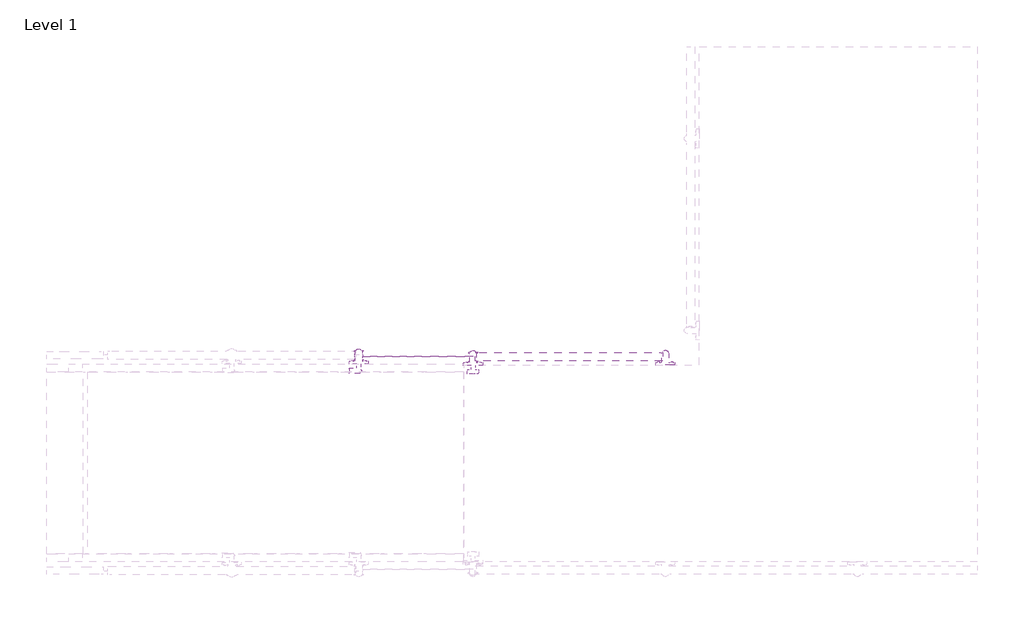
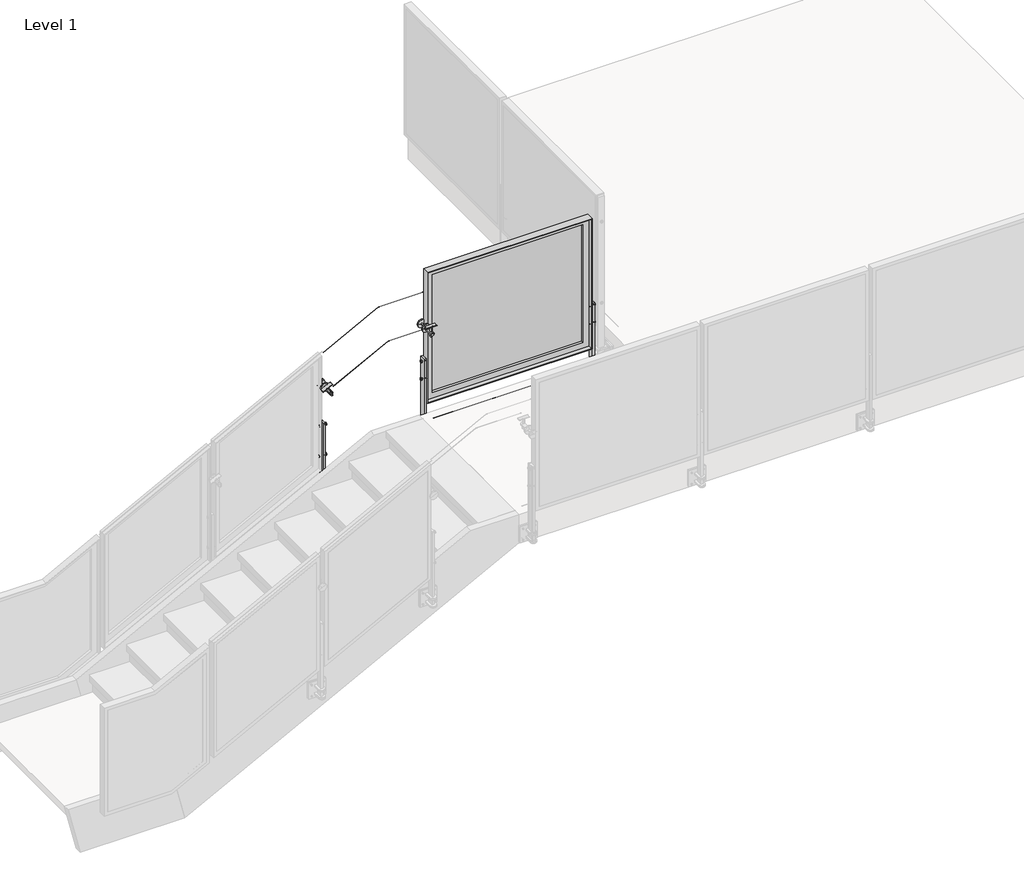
# One storey, part 25 of 37: 2 proxies, 2 railings.
"""IFC4 building model written with IfcOpenShell, lengths in millimetres."""

from ifc_helpers import new_model, si_unit, point, frame, frame_2d, origin, place, context, project, spatial, polyline, circle_curve, ellipse_curve, trimmed, segment, composite_curve, outline, extrude, faceted_brep, transform, mapped, element, save
from ifc_brep_helpers import plane_surface, cylinder_surface, advanced_brep
from components import baluster_end_post_viva_frame_top_mount_welded_fascia_mount_f3869cb3, baluster_end_post_viva_frame_top_mount_stairs_welded_fascia_58373508

model = new_model("IFC4")

# Units and contexts
model_context = context("Model", 3, world=origin())
ifc_project = project(units=[si_unit("LENGTHUNIT", "METRE", prefix="MILLI")], contexts=[model_context])

# Site, building, storey
site = spatial("IfcSite", under=ifc_project)
building = spatial("IfcBuilding", under=site)
storey = spatial("IfcBuildingStorey", under=building, Name="Level 1", Elevation=0.0)

# Proxies
placement = place(None, origin())
baluster_end_post_viva_frame_top_mount_welded_fascia_mount_shape = baluster_end_post_viva_frame_top_mount_welded_fascia_mount_f3869cb3(model_context)
element("IfcBuildingElementProxy", 1, Name="Baluster-End-Post-VIVA-FRAME-Top Mount : WELDED Fascia MOUNT FOLD_STRAIGHT", ObjectType="Baluster-End-Post-VIVA-FRAME-Top Mount : WELDED Fascia MOUNT FOLD_STRAIGHT", at=placement, inside=storey, context=model_context, shape_type="MappedRepresentation", body=[
    mapped(baluster_end_post_viva_frame_top_mount_welded_fascia_mount_shape, transform((-6142.7500753, -2684.7736112, 3047.492), x_axis=(-1.0, 0.0, 0.0), y_axis=(0.0, -1.0, 0.0), z_axis=(0.0, 0.0, 1.0))),
])
baluster_end_post_viva_frame_top_mount_stairs_welded_fascia_shape = baluster_end_post_viva_frame_top_mount_stairs_welded_fascia_58373508(model_context)
element("IfcBuildingElementProxy", 2, Name="Baluster-End-Post-VIVA-FRAME-Top Mount Stairs : WELDED Fascia MOUNT FRAME_STAIR", ObjectType="Baluster-End-Post-VIVA-FRAME-Top Mount Stairs : WELDED Fascia MOUNT FRAME_STAIR", at=placement, inside=storey, context=model_context, shape_type="MappedRepresentation", body=[
    mapped(baluster_end_post_viva_frame_top_mount_stairs_welded_fascia_shape, transform((-7412.9434339, -2686.9085772, 3784.092), x_axis=(-1.0, 0.0, 0.0), y_axis=(0.0, -1.0, 0.0), z_axis=(0.0, 0.0, 1.0))),
])

# Railings
element("IfcRailing", 3, ObjectType="Metal-Panel-VIVA-FRAME-Fascia-Stairs-Landing-Upper", at=placement, inside=storey, context=model_context, shape_type="SolidModel", body=[
    advanced_brep(
    [(-8168.6029585, -2687.1625772, 3568.458378), (-8168.6029585, -2686.6545772, 3568.458378), (-7753.0192861, -2687.1625772, 3784.346), (-7753.0192861, -2686.6545772, 3784.346), (-7412.9434339, -2687.1625772, 3784.346), (-7412.9434339, -2686.6545772, 3784.346)],
    [
        (0, 1, ellipse_curve(frame((-8168.6029585, -2686.9085772, 3568.458378), z_axis=(-1.0, 0.0, 0.0), x_axis=(0.0, 0.0, -1.0)), 0.2862277, 0.254)),
        (1, 0, ellipse_curve(frame((-8168.6029585, -2686.9085772, 3568.458378), z_axis=(-1.0, 0.0, 0.0), x_axis=(0.0, 0.0, -1.0)), 0.2862277, 0.254)),
        (0, 2),
        (2, 3, ellipse_curve(frame((-7753.0192861, -2686.9085772, 3784.346), z_axis=(-0.9714436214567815, 0.0, -0.2372705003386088), x_axis=(0.2372705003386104, 0.0, -0.9714436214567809)), 0.2614665, 0.254)),
        (3, 1),
        (3, 2, ellipse_curve(frame((-7753.0192861, -2686.9085772, 3784.346), z_axis=(-0.9714436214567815, 0.0, -0.2372705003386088), x_axis=(0.2372705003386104, 0.0, -0.9714436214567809)), 0.2614665, 0.254)),
        (4, 5, circle_curve(frame((-7412.9434339, -2686.9085772, 3784.346), z_axis=(1.0, 0.0, 0.0), x_axis=(0.0, 1.0, 0.0)), 0.254)),
        (5, 4, circle_curve(frame((-7412.9434339, -2686.9085772, 3784.346), z_axis=(1.0, 0.0, 0.0), x_axis=(0.0, 1.0, 0.0)), 0.254)),
        (2, 4),
        (5, 3),
    ],
    [
        plane_surface(frame((-8168.6029585, -2686.9085772, 3568.7446057), z_axis=(-1.0, 0.0, 0.0), x_axis=(0.0, 1.0, 0.0))),
        cylinder_surface(frame((-8168.4858671, -2686.9085772, 3568.5192047), z_axis=(-0.8874054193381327, 0.0, -0.46098982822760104), x_axis=(0.0, 1.0, 0.0)), 0.254),
        plane_surface(frame((-7412.9434339, -2686.9085772, 3784.6), z_axis=(1.0, 0.0, 0.0), x_axis=(0.0, 1.0, 0.0))),
        cylinder_surface(frame((-7753.0813244, -2686.9085772, 3784.346), z_axis=(-1.0, 0.0, 0.0), x_axis=(0.0, 1.0, 0.0)), 0.254),
    ],
    [
        (0, [[1, 2]]),
        (1, [[-1, 3, 4, 5]]),
        (1, [[-2, -5, 6, -3]]),
        (2, [[7, 8]]),
        (3, [[-4, 9, -8, 10]]),
        (3, [[-6, -10, -7, -9]]),
    ],
),
    advanced_brep(
    [(-8168.6029585, -2556.1697772, 3758.6811654), (-8168.6029585, -2555.1697772, 3758.6811654), (-7752.9592018, -2556.1697772, 3974.6), (-7752.9592018, -2555.1697772, 3974.6), (-7412.9434339, -2556.1697772, 3974.6), (-7412.9434339, -2555.1697772, 3974.6)],
    [
        (0, 1, ellipse_curve(frame((-8168.6029585, -2555.6697772, 3758.6811654), z_axis=(-1.0, 0.0, 0.0), x_axis=(0.0, 0.0, -1.0)), 0.5634403, 0.5)),
        (1, 0, ellipse_curve(frame((-8168.6029585, -2555.6697772, 3758.6811654), z_axis=(-1.0, 0.0, 0.0), x_axis=(0.0, 0.0, -1.0)), 0.5634403, 0.5)),
        (0, 2),
        (2, 3, ellipse_curve(frame((-7752.9592018, -2555.6697772, 3974.6), z_axis=(-0.9714436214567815, 0.0, -0.2372705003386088), x_axis=(0.2372705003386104, 0.0, -0.9714436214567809)), 0.5146979, 0.5)),
        (3, 1),
        (3, 2, ellipse_curve(frame((-7752.9592018, -2555.6697772, 3974.6), z_axis=(-0.9714436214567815, 0.0, -0.2372705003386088), x_axis=(0.2372705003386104, 0.0, -0.9714436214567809)), 0.5146979, 0.5)),
        (4, 5, circle_curve(frame((-7412.9434339, -2555.6697772, 3974.6), z_axis=(1.0, 0.0, 0.0), x_axis=(0.0, 1.0, 0.0)), 0.5)),
        (5, 4, circle_curve(frame((-7412.9434339, -2555.6697772, 3974.6), z_axis=(1.0, 0.0, 0.0), x_axis=(0.0, 1.0, 0.0)), 0.5)),
        (2, 4),
        (5, 3),
    ],
    [
        plane_surface(frame((-8168.6029585, -2555.6697772, 3759.2446057), z_axis=(-1.0, 0.0, 0.0), x_axis=(0.0, 1.0, 0.0))),
        cylinder_surface(frame((-8168.3724636, -2555.6697772, 3758.800903), z_axis=(-0.8874054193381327, 0.0, -0.46098982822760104), x_axis=(0.0, 1.0, 0.0)), 0.5),
        plane_surface(frame((-7412.9434339, -2555.6697772, 3975.1), z_axis=(1.0, 0.0, 0.0), x_axis=(0.0, 1.0, 0.0))),
        cylinder_surface(frame((-7753.0813244, -2555.6697772, 3974.6), z_axis=(-1.0, 0.0, 0.0), x_axis=(0.0, 1.0, 0.0)), 0.5),
    ],
    [
        (0, [[1, 2]]),
        (1, [[-1, 3, 4, 5]]),
        (1, [[-2, -5, 6, -3]]),
        (2, [[7, 8]]),
        (3, [[-4, 9, -8, 10]]),
        (3, [[-6, -10, -7, -9]]),
    ],
),
    extrude(outline(composite_curve([segment(trimmed(circle_curve(frame_2d((-19.0451472, 1e-07)), 22.0448871), [point((2.99974, 0.0))], [point((-24.3499073, -21.3971159))], False, "CARTESIAN"), True, "CONTINUOUS"), segment(polyline([(-24.3499073, -21.3971159), (-23.6280664, -18.4855208)]), True, "CONTINUOUS"), segment(trimmed(circle_curve(frame_2d((-19.0451472, 1e-07)), 19.0451471), [point((-23.6280664, -18.4855208))], [point((0.0, 0.0))], True, "CARTESIAN"), True, "CONTINUOUS"), segment(polyline([(0.0, 0.0), (2.99974, 0.0)]), True, "CONTINUOUS")], self_intersect=False)), frame((-8231.0906689, -2634.9007772, 3531.2108025), z_axis=(0.887405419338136, 0.0, 0.4609898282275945), x_axis=(0.2840545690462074, 0.7876022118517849, -0.5468050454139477)), (0.0, 0.0, 1.0), 79.1184357),
    advanced_brep(
    [(-8156.2057808, -2649.9007772, 3472.8710387), (-8156.2057808, -2657.0445272, 3472.8710387), (-8156.2057808, -2642.7570272, 3472.8710387), (-8192.0650271, -2642.7570272, 3541.9000878), (-8192.0650271, -2657.0445272, 3541.9000878), (-8192.0650271, -2649.9007772, 3541.9000878)],
    [
        (0, 1),
        (1, 2, circle_curve(frame((-8156.2057808, -2649.9007772, 3472.8710387), z_axis=(0.46098982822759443, 0.0, -0.887405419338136), x_axis=(0.0, -1.0, 0.0)), 7.14375)),
        (2, 0),
        (3, 4, circle_curve(frame((-8192.0650271, -2649.9007772, 3541.9000878), z_axis=(-0.46098982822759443, 0.0, 0.887405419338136), x_axis=(0.0, -1.0, 0.0)), 7.14375)),
        (4, 5),
        (5, 3),
        (2, 1, circle_curve(frame((-8156.2057808, -2649.9007772, 3472.8710387), z_axis=(0.46098982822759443, 0.0, -0.887405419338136), x_axis=(0.0, -1.0, 0.0)), 7.14375)),
        (4, 3, circle_curve(frame((-8192.0650271, -2649.9007772, 3541.9000878), z_axis=(-0.46098982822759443, 0.0, 0.887405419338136), x_axis=(0.0, -1.0, 0.0)), 7.14375)),
        (1, 4),
        (3, 2),
    ],
    [
        plane_surface(frame((-8156.2057808, -2649.9007772, 3472.8710387), z_axis=(0.46098982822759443, 0.0, -0.887405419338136), x_axis=(0.0, -1.0, 0.0))),
        plane_surface(frame((-8192.0650271, -2649.9007772, 3541.9000878), z_axis=(-0.46098982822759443, 0.0, 0.887405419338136), x_axis=(0.0, -1.0, 0.0))),
        cylinder_surface(frame((-8039.251581, -2649.9007772, 3247.734204), z_axis=(0.46098982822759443, 0.0, -0.887405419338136), x_axis=(0.0, -1.0, 0.0)), 7.14375),
    ],
    [
        (0, [[1, 2, 3]]),
        (1, [[4, 5, 6]]),
        (0, [[-3, 7, -1]]),
        (1, [[8, -6, -5]]),
        (2, [[-2, 9, -4, 10]]),
        (2, [[-7, -10, -8, -9]]),
    ],
),
    advanced_brep(
    [(-8195.3693244, -2522.9007772, 3482.831), (-8141.8365925, -2522.9007772, 3510.6402114), (-8162.9679341, -2522.9007772, 3499.6628911), (-8174.2379829, -2522.9007772, 3493.8083203), (-8195.3693244, -2514.9632772, 3482.831), (-8141.8365925, -2514.9632772, 3510.6402114), (-8195.3693244, -2581.6382772, 3482.831), (-8141.8365925, -2581.6382772, 3510.6402114), (-8157.3329096, -2581.6382772, 3502.5901765), (-8179.8730073, -2581.6382772, 3490.8810349), (-8195.3693244, -2573.7007772, 3482.831), (-8141.8365925, -2573.7007772, 3510.6402114), (-8168.6029585, -2514.9632772, 3496.7356057), (-8179.8730073, -2661.0132772, 3490.8810349), (-8157.3329096, -2661.0132772, 3502.5901765), (-8168.6029585, -2661.0132772, 3496.7356057), (-8174.2379829, -2573.7007772, 3493.8083203), (-8162.9679341, -2573.7007772, 3499.6628911)],
    [
        (0, 1, circle_curve(frame((-8168.6029585, -2522.9007772, 3496.7356057), z_axis=(0.0, -1.0, 0.0), x_axis=(0.8874054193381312, 0.0, 0.46098982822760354)), 30.1625)),
        (1, 2),
        (2, 3, circle_curve(frame((-8168.6029585, -2522.9007772, 3496.7356057), z_axis=(0.0, 1.0, 0.0), x_axis=(0.8874054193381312, 0.0, 0.46098982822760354)), 6.35)),
        (3, 0),
        (4, 5, circle_curve(frame((-8168.6029585, -2514.9632772, 3496.7356057), z_axis=(0.0, -1.0, 0.0), x_axis=(0.8874054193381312, 0.0, 0.46098982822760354)), 30.1625)),
        (5, 1),
        (0, 4),
        (6, 7, circle_curve(frame((-8168.6029585, -2581.6382772, 3496.7356057), z_axis=(0.0, -1.0, 0.0), x_axis=(0.8874054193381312, 0.0, 0.46098982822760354)), 30.1625)),
        (7, 8),
        (8, 9, circle_curve(frame((-8168.6029585, -2581.6382772, 3496.7356057), z_axis=(0.0, 1.0, 0.0), x_axis=(0.8874054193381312, 0.0, 0.46098982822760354)), 12.7)),
        (9, 6),
        (10, 11, circle_curve(frame((-8168.6029585, -2573.7007772, 3496.7356057), z_axis=(0.0, -1.0, 0.0), x_axis=(0.8874054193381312, 0.0, 0.46098982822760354)), 30.1625)),
        (11, 7),
        (6, 10),
        (5, 4, circle_curve(frame((-8168.6029585, -2514.9632772, 3496.7356057), z_axis=(0.0, -1.0, 0.0), x_axis=(0.8874054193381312, 0.0, 0.46098982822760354)), 30.1625)),
        (0, 1, circle_curve(frame((-8168.6029585, -2522.9007772, 3496.7356057), z_axis=(0.0, 1.0, 0.0), x_axis=(0.8874054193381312, 0.0, 0.46098982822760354)), 30.1625)),
        (12, 5),
        (4, 12),
        (13, 14, circle_curve(frame((-8168.6029585, -2661.0132772, 3496.7356057), z_axis=(0.0, -1.0, 0.0), x_axis=(0.8874054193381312, 0.0, 0.46098982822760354)), 12.7)),
        (14, 15),
        (15, 13),
        (14, 13, circle_curve(frame((-8168.6029585, -2661.0132772, 3496.7356057), z_axis=(0.0, -1.0, 0.0), x_axis=(0.8874054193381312, 0.0, 0.46098982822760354)), 12.7)),
        (8, 14),
        (13, 9),
        (8, 9, circle_curve(frame((-8168.6029585, -2581.6382772, 3496.7356057), z_axis=(0.0, -1.0, 0.0), x_axis=(0.8874054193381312, 0.0, 0.46098982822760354)), 12.7)),
        (7, 6, circle_curve(frame((-8168.6029585, -2581.6382772, 3496.7356057), z_axis=(0.0, -1.0, 0.0), x_axis=(0.8874054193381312, 0.0, 0.46098982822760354)), 30.1625)),
        (11, 10, circle_curve(frame((-8168.6029585, -2573.7007772, 3496.7356057), z_axis=(0.0, -1.0, 0.0), x_axis=(0.8874054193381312, 0.0, 0.46098982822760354)), 30.1625)),
        (16, 17, circle_curve(frame((-8168.6029585, -2573.7007772, 3496.7356057), z_axis=(0.0, -1.0, 0.0), x_axis=(0.8874054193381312, 0.0, 0.46098982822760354)), 6.35)),
        (17, 11),
        (10, 16),
        (17, 16, circle_curve(frame((-8168.6029585, -2573.7007772, 3496.7356057), z_axis=(0.0, -1.0, 0.0), x_axis=(0.8874054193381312, 0.0, 0.46098982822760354)), 6.35)),
        (2, 17),
        (16, 3),
        (2, 3, circle_curve(frame((-8168.6029585, -2522.9007772, 3496.7356057), z_axis=(0.0, -1.0, 0.0), x_axis=(0.8874054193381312, 0.0, 0.46098982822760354)), 6.35)),
    ],
    [
        plane_surface(frame((-8168.6029585, -2522.9007772, 3496.7356057), z_axis=(0.0, -1.0, 0.0), x_axis=(0.8874054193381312, 0.0, 0.46098982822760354))),
        cylinder_surface(frame((-8168.6029585, -1049.7007772, 3496.7356057), z_axis=(0.0, 1.0, 0.0), x_axis=(0.8874054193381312, 0.0, 0.46098982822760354)), 30.1625),
        plane_surface(frame((-8168.6029585, -2581.6382772, 3496.7356057), z_axis=(0.0, -1.0, 0.0), x_axis=(0.8874054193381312, 0.0, 0.46098982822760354))),
        plane_surface(frame((-8168.6029585, -2514.9632772, 3496.7356057), z_axis=(0.0, 1.0, 0.0), x_axis=(0.8874054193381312, 0.0, 0.46098982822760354))),
        plane_surface(frame((-8168.6029585, -2661.0132772, 3496.7356057), z_axis=(0.0, -1.0, 0.0), x_axis=(0.8874054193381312, 0.0, 0.46098982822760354))),
        cylinder_surface(frame((-8168.6029585, -1049.7007772, 3496.7356057), z_axis=(0.0, 1.0, 0.0), x_axis=(0.8874054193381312, 0.0, 0.46098982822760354)), 12.7),
        plane_surface(frame((-8168.6029585, -2573.7007772, 3496.7356057), z_axis=(0.0, 1.0, 0.0), x_axis=(0.8874054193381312, 0.0, 0.46098982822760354))),
        cylinder_surface(frame((-8168.6029585, -1049.7007772, 3496.7356057), z_axis=(0.0, 1.0, 0.0), x_axis=(0.8874054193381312, 0.0, 0.46098982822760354)), 6.35),
    ],
    [
        (0, [[1, 2, 3, 4]]),
        (1, [[5, 6, -1, 7]]),
        (2, [[8, 9, 10, 11]]),
        (1, [[12, 13, -8, 14]]),
        (1, [[15, -7, 16, -6]]),
        (3, [[17, -5, 18]]),
        (3, [[-18, -15, -17]]),
        (4, [[19, 20, 21]]),
        (4, [[22, -21, -20]]),
        (5, [[-10, 23, -19, 24]]),
        (5, [[25, -24, -22, -23]]),
        (2, [[26, -11, -25, -9]]),
        (1, [[27, -14, -26, -13]]),
        (6, [[28, 29, -12, 30]]),
        (6, [[31, -30, -27, -29]]),
        (7, [[-3, 32, -28, 33]]),
        (7, [[34, -33, -31, -32]]),
        (0, [[-16, -4, -34, -2]]),
    ],
),
    extrude(outline(composite_curve([segment(trimmed(circle_curve(frame_2d((-8168.6029585, -2528.4998705)), 23.0378), [point((-8191.6407585, -2528.4998705))], [point((-8145.5651585, -2528.4998705))], False, "CARTESIAN"), True, "CONTINUOUS"), segment(polyline([(-8145.5651585, -2528.4998705), (-8145.5651585, -2586.4007772), (-8191.6407585, -2586.4007772), (-8191.6407585, -2528.4998705)]), True, "CONTINUOUS")], self_intersect=False)), frame((0.0, 0.0, 2607.7780857), z_axis=(0.0, 0.0, 1.0), x_axis=(1.0, 0.0, 0.0)), (0.0, 0.0, 1.0), 12.7),
    extrude(outline(composite_curve([segment(polyline([(-8145.5651585, -2586.4007772), (-8191.6407585, -2586.4007772), (-8191.6407585, -2528.4998705)]), True, "CONTINUOUS"), segment(trimmed(circle_curve(frame_2d((-8168.6029585, -2528.4998705)), 23.0378), [point((-8191.6407585, -2528.4998705))], [point((-8145.5651585, -2528.4998705))], False, "CARTESIAN"), True, "CONTINUOUS"), segment(polyline([(-8145.5651585, -2528.4998705), (-8145.5651585, -2586.4007772)]), True, "CONTINUOUS")], self_intersect=False)), frame((0.0, 0.0, 2669.7032857), z_axis=(0.0, 0.0, 1.0), x_axis=(1.0, 0.0, 0.0)), (0.0, 0.0, 1.0), 12.7),
    extrude(outline(composite_curve([segment(trimmed(circle_curve(frame_2d((2690.3534857, -8124.1580266)), 4.7752), [point((2690.3534857, -8119.3828266))], [point((2690.3534857, -8128.9332266))], False, "CARTESIAN"), True, "CONTINUOUS"), segment(trimmed(circle_curve(frame_2d((2690.3534857, -8124.1580266)), 4.7752), [point((2690.3534857, -8128.9332266))], [point((2690.3534857, -8119.3828266))], False, "CARTESIAN"), True, "CONTINUOUS")], self_intersect=False)), frame((0.0, -2595.9257772, 0.0), z_axis=(0.0, 1.0, 0.0), x_axis=(0.0, 0.0, 1.0)), (0.0, 0.0, 1.0), 14.3002),
    extrude(outline(composite_curve([segment(trimmed(circle_curve(frame_2d((2690.3534857, -8213.0478904)), 4.7752), [point((2690.3534857, -8208.2726904))], [point((2690.3534857, -8217.8230904))], False, "CARTESIAN"), True, "CONTINUOUS"), segment(trimmed(circle_curve(frame_2d((2690.3534857, -8213.0478904)), 4.7752), [point((2690.3534857, -8217.8230904))], [point((2690.3534857, -8208.2726904))], False, "CARTESIAN"), True, "CONTINUOUS")], self_intersect=False)), frame((0.0, -2595.9257772, 0.0), z_axis=(0.0, 1.0, 0.0), x_axis=(0.0, 0.0, 1.0)), (0.0, 0.0, 1.0), 14.3002),
    extrude(outline(composite_curve([segment(trimmed(circle_curve(frame_2d((2601.4534857, -8213.0478904)), 4.7752), [point((2601.4534857, -8208.2726904))], [point((2601.4534857, -8217.8230904))], False, "CARTESIAN"), True, "CONTINUOUS"), segment(trimmed(circle_curve(frame_2d((2601.4534857, -8213.0478904)), 4.7752), [point((2601.4534857, -8217.8230904))], [point((2601.4534857, -8208.2726904))], False, "CARTESIAN"), True, "CONTINUOUS")], self_intersect=False)), frame((0.0, -2595.9257772, 0.0), z_axis=(0.0, 1.0, 0.0), x_axis=(0.0, 0.0, 1.0)), (0.0, 0.0, 1.0), 14.3002),
    extrude(outline(composite_curve([segment(trimmed(circle_curve(frame_2d((2601.4534857, -8124.1580266)), 4.7752), [point((2601.4534857, -8119.3828266))], [point((2601.4534857, -8128.9332266))], False, "CARTESIAN"), True, "CONTINUOUS"), segment(trimmed(circle_curve(frame_2d((2601.4534857, -8124.1580266)), 4.7752), [point((2601.4534857, -8128.9332266))], [point((2601.4534857, -8119.3828266))], False, "CARTESIAN"), True, "CONTINUOUS")], self_intersect=False)), frame((0.0, -2595.9257772, 0.0), z_axis=(0.0, 1.0, 0.0), x_axis=(0.0, 0.0, 1.0)), (0.0, 0.0, 1.0), 14.3002),
    extrude(outline(polyline([(-8105.1049369, -2595.9257772), (-8105.1049369, -2605.4507772), (-8232.10098, -2605.4507772), (-8232.10098, -2595.9257772), (-8105.1049369, -2595.9257772)])), frame((0.0, 0.0, 2582.4034857), z_axis=(0.0, 0.0, 1.0), x_axis=(1.0, 0.0, 0.0)), (0.0, 0.0, 1.0), 127.0),
    extrude(outline(polyline([(-8105.1049369, -2586.4007772), (-8105.1049369, -2595.9257772), (-8232.10098, -2595.9257772), (-8232.10098, -2586.4007772), (-8105.1049369, -2586.4007772)])), frame((0.0, 0.0, 2582.4034857), z_axis=(0.0, 0.0, 1.0), x_axis=(1.0, 0.0, 0.0)), (0.0, 0.0, 1.0), 127.0),
    advanced_brep(
    [(-8194.7903585, -2548.3007772, 2926.8528857), (-8194.7903585, -2548.3007772, 2936.4032857), (-8194.7903585, -2548.3007772, 2945.9536857), (-8190.0151585, -2548.3007772, 2926.8528857), (-8190.0151585, -2548.3007772, 2945.9536857), (-8190.0151585, -2548.3007772, 2931.6280857), (-8190.0151585, -2548.3007772, 2941.1784857), (-8147.1907585, -2548.3007772, 2931.6280857), (-8147.1907585, -2548.3007772, 2941.1784857), (-8147.1907585, -2548.3007772, 2926.8528857), (-8147.1907585, -2548.3007772, 2945.9536857), (-8142.4155585, -2548.3007772, 2926.8528857), (-8142.4155585, -2548.3007772, 2945.9536857), (-8142.4155585, -2548.3007772, 2936.4032857)],
    [
        (0, 1),
        (1, 2),
        (2, 0, circle_curve(frame((-8194.7903585, -2548.3007772, 2936.4032857), z_axis=(-1.0, 0.0, 0.0), x_axis=(0.0, 0.0, 1.0)), 9.5504)),
        (0, 2, circle_curve(frame((-8194.7903585, -2548.3007772, 2936.4032857), z_axis=(-1.0, 0.0, 0.0), x_axis=(0.0, 0.0, 1.0)), 9.5504)),
        (3, 0),
        (2, 4),
        (4, 3, circle_curve(frame((-8190.0151585, -2548.3007772, 2936.4032857), z_axis=(-1.0, 0.0, 0.0), x_axis=(0.0, 0.0, 1.0)), 9.5504)),
        (3, 4, circle_curve(frame((-8190.0151585, -2548.3007772, 2936.4032857), z_axis=(-1.0, 0.0, 0.0), x_axis=(0.0, 0.0, 1.0)), 9.5504)),
        (5, 3),
        (4, 6),
        (6, 5, circle_curve(frame((-8190.0151585, -2548.3007772, 2936.4032857), z_axis=(-1.0, 0.0, 0.0), x_axis=(0.0, 0.0, 1.0)), 4.7752)),
        (5, 6, circle_curve(frame((-8190.0151585, -2548.3007772, 2936.4032857), z_axis=(-1.0, 0.0, 0.0), x_axis=(0.0, 0.0, 1.0)), 4.7752)),
        (7, 5),
        (6, 8),
        (8, 7, circle_curve(frame((-8147.1907585, -2548.3007772, 2936.4032857), z_axis=(-1.0, 0.0, 0.0), x_axis=(0.0, 0.0, 1.0)), 4.7752)),
        (7, 8, circle_curve(frame((-8147.1907585, -2548.3007772, 2936.4032857), z_axis=(-1.0, 0.0, 0.0), x_axis=(0.0, 0.0, 1.0)), 4.7752)),
        (9, 7),
        (8, 10),
        (10, 9, circle_curve(frame((-8147.1907585, -2548.3007772, 2936.4032857), z_axis=(-1.0, 0.0, 0.0), x_axis=(0.0, 0.0, 1.0)), 9.5504)),
        (9, 10, circle_curve(frame((-8147.1907585, -2548.3007772, 2936.4032857), z_axis=(-1.0, 0.0, 0.0), x_axis=(0.0, 0.0, 1.0)), 9.5504)),
        (11, 9),
        (10, 12),
        (12, 11, circle_curve(frame((-8142.4155585, -2548.3007772, 2936.4032857), z_axis=(-1.0, 0.0, 0.0), x_axis=(0.0, 0.0, 1.0)), 9.5504)),
        (11, 12, circle_curve(frame((-8142.4155585, -2548.3007772, 2936.4032857), z_axis=(-1.0, 0.0, 0.0), x_axis=(0.0, 0.0, 1.0)), 9.5504)),
        (13, 11),
        (12, 13),
    ],
    [
        plane_surface(frame((-8194.7903585, -2548.3007772, 2936.4032857), z_axis=(-1.0, 0.0, 0.0), x_axis=(0.0, 0.0, 1.0))),
        cylinder_surface(frame((-11586.3707156, -2548.3007772, 2936.4032857), z_axis=(1.0, 0.0, 0.0), x_axis=(0.0, 0.0, 1.0)), 9.5504),
        plane_surface(frame((-8190.0151585, -2548.3007772, 2936.4032857), z_axis=(1.0, 0.0, 0.0), x_axis=(0.0, 0.0, 1.0))),
        cylinder_surface(frame((-11586.3707156, -2548.3007772, 2936.4032857), z_axis=(1.0, 0.0, 0.0), x_axis=(0.0, 0.0, 1.0)), 4.7752),
        plane_surface(frame((-8147.1907585, -2548.3007772, 2936.4032857), z_axis=(-1.0, 0.0, 0.0), x_axis=(0.0, 0.0, 1.0))),
        plane_surface(frame((-8142.4155585, -2548.3007772, 2936.4032857), z_axis=(1.0, 0.0, 0.0), x_axis=(0.0, 0.0, 1.0))),
    ],
    [
        (0, [[1, 2, 3]]),
        (0, [[-2, -1, 4]]),
        (1, [[5, -3, 6, 7]]),
        (1, [[-6, -4, -5, 8]]),
        (2, [[9, -7, 10, 11]]),
        (2, [[-10, -8, -9, 12]]),
        (3, [[13, -11, 14, 15]]),
        (3, [[-14, -12, -13, 16]]),
        (4, [[17, -15, 18, 19]]),
        (4, [[-18, -16, -17, 20]]),
        (1, [[21, -19, 22, 23]]),
        (1, [[-22, -20, -21, 24]]),
        (5, [[25, -23, 26]]),
        (5, [[-26, -24, -25]]),
    ],
),
    advanced_brep(
    [(-8194.7903585, -2548.3007772, 3168.1528857), (-8194.7903585, -2548.3007772, 3177.7032857), (-8194.7903585, -2548.3007772, 3187.2536857), (-8190.0151585, -2548.3007772, 3168.1528857), (-8190.0151585, -2548.3007772, 3187.2536857), (-8190.0151585, -2548.3007772, 3172.9280857), (-8190.0151585, -2548.3007772, 3182.4784857), (-8147.1907585, -2548.3007772, 3172.9280857), (-8147.1907585, -2548.3007772, 3182.4784857), (-8147.1907585, -2548.3007772, 3168.1528857), (-8147.1907585, -2548.3007772, 3187.2536857), (-8142.4155585, -2548.3007772, 3168.1528857), (-8142.4155585, -2548.3007772, 3187.2536857), (-8142.4155585, -2548.3007772, 3177.7032857)],
    [
        (0, 1),
        (1, 2),
        (2, 0, circle_curve(frame((-8194.7903585, -2548.3007772, 3177.7032857), z_axis=(-1.0, 0.0, 0.0), x_axis=(0.0, 0.0, 1.0)), 9.5504)),
        (0, 2, circle_curve(frame((-8194.7903585, -2548.3007772, 3177.7032857), z_axis=(-1.0, 0.0, 0.0), x_axis=(0.0, 0.0, 1.0)), 9.5504)),
        (3, 0),
        (2, 4),
        (4, 3, circle_curve(frame((-8190.0151585, -2548.3007772, 3177.7032857), z_axis=(-1.0, 0.0, 0.0), x_axis=(0.0, 0.0, 1.0)), 9.5504)),
        (3, 4, circle_curve(frame((-8190.0151585, -2548.3007772, 3177.7032857), z_axis=(-1.0, 0.0, 0.0), x_axis=(0.0, 0.0, 1.0)), 9.5504)),
        (5, 3),
        (4, 6),
        (6, 5, circle_curve(frame((-8190.0151585, -2548.3007772, 3177.7032857), z_axis=(-1.0, 0.0, 0.0), x_axis=(0.0, 0.0, 1.0)), 4.7752)),
        (5, 6, circle_curve(frame((-8190.0151585, -2548.3007772, 3177.7032857), z_axis=(-1.0, 0.0, 0.0), x_axis=(0.0, 0.0, 1.0)), 4.7752)),
        (7, 5),
        (6, 8),
        (8, 7, circle_curve(frame((-8147.1907585, -2548.3007772, 3177.7032857), z_axis=(-1.0, 0.0, 0.0), x_axis=(0.0, 0.0, 1.0)), 4.7752)),
        (7, 8, circle_curve(frame((-8147.1907585, -2548.3007772, 3177.7032857), z_axis=(-1.0, 0.0, 0.0), x_axis=(0.0, 0.0, 1.0)), 4.7752)),
        (9, 7),
        (8, 10),
        (10, 9, circle_curve(frame((-8147.1907585, -2548.3007772, 3177.7032857), z_axis=(-1.0, 0.0, 0.0), x_axis=(0.0, 0.0, 1.0)), 9.5504)),
        (9, 10, circle_curve(frame((-8147.1907585, -2548.3007772, 3177.7032857), z_axis=(-1.0, 0.0, 0.0), x_axis=(0.0, 0.0, 1.0)), 9.5504)),
        (11, 9),
        (10, 12),
        (12, 11, circle_curve(frame((-8142.4155585, -2548.3007772, 3177.7032857), z_axis=(-1.0, 0.0, 0.0), x_axis=(0.0, 0.0, 1.0)), 9.5504)),
        (11, 12, circle_curve(frame((-8142.4155585, -2548.3007772, 3177.7032857), z_axis=(-1.0, 0.0, 0.0), x_axis=(0.0, 0.0, 1.0)), 9.5504)),
        (13, 11),
        (12, 13),
    ],
    [
        plane_surface(frame((-8194.7903585, -2548.3007772, 3177.7032857), z_axis=(-1.0, 0.0, 0.0), x_axis=(0.0, 0.0, 1.0))),
        cylinder_surface(frame((-11586.3707156, -2548.3007772, 3177.7032857), z_axis=(1.0, 0.0, 0.0), x_axis=(0.0, 0.0, 1.0)), 9.5504),
        plane_surface(frame((-8190.0151585, -2548.3007772, 3177.7032857), z_axis=(1.0, 0.0, 0.0), x_axis=(0.0, 0.0, 1.0))),
        cylinder_surface(frame((-11586.3707156, -2548.3007772, 3177.7032857), z_axis=(1.0, 0.0, 0.0), x_axis=(0.0, 0.0, 1.0)), 4.7752),
        plane_surface(frame((-8147.1907585, -2548.3007772, 3177.7032857), z_axis=(-1.0, 0.0, 0.0), x_axis=(0.0, 0.0, 1.0))),
        plane_surface(frame((-8142.4155585, -2548.3007772, 3177.7032857), z_axis=(1.0, 0.0, 0.0), x_axis=(0.0, 0.0, 1.0))),
    ],
    [
        (0, [[1, 2, 3]]),
        (0, [[-2, -1, 4]]),
        (1, [[5, -3, 6, 7]]),
        (1, [[-6, -4, -5, 8]]),
        (2, [[9, -7, 10, 11]]),
        (2, [[-10, -8, -9, 12]]),
        (3, [[13, -11, 14, 15]]),
        (3, [[-14, -12, -13, 16]]),
        (4, [[17, -15, 18, 19]]),
        (4, [[-18, -16, -17, 20]]),
        (1, [[21, -19, 22, 23]]),
        (1, [[-22, -20, -21, 24]]),
        (5, [[25, -23, 26]]),
        (5, [[-26, -24, -25]]),
    ],
),
    extrude(outline(polyline([(-8176.5425501, -2570.5257772), (-8176.5425501, -2526.0757772), (-8160.6633668, -2526.0757772), (-8160.6633668, -2570.5257772), (-8176.5425501, -2570.5257772)])), frame((0.0, 0.0, 2614.1280857), z_axis=(0.0, 0.0, 1.0), x_axis=(1.0, 0.0, 0.0)), (0.0, 0.0, 1.0), 588.9752),
])
element("IfcRailing", 4, ObjectType="Metal-Panel-VIVA-FRAME-Fascia-Straight", at=placement, inside=storey, context=model_context, shape_type="SolidModel", body=[
    extrude(outline(composite_curve([segment(trimmed(circle_curve(frame_2d((-2684.7736112, 3047.746)), 0.254), [point((-2685.0276112, 3047.746))], [point((-2684.5196112, 3047.746))], False, "CARTESIAN"), True, "CONTINUOUS"), segment(trimmed(circle_curve(frame_2d((-2684.7736112, 3047.746)), 0.254), [point((-2684.5196112, 3047.746))], [point((-2685.0276112, 3047.746))], False, "CARTESIAN"), True, "CONTINUOUS")], self_intersect=False)), frame((-7412.7500753, 0.0, 0.0), z_axis=(1.0, 0.0, 0.0), x_axis=(0.0, 1.0, 0.0)), (0.0, 0.0, 1.0), 1270.0),
    extrude(outline(composite_curve([segment(trimmed(circle_curve(frame_2d((-2684.7736112, 3047.746)), 0.254), [point((-2685.0276112, 3047.746))], [point((-2684.5196112, 3047.746))], False, "CARTESIAN"), True, "CONTINUOUS"), segment(trimmed(circle_curve(frame_2d((-2684.7736112, 3047.746)), 0.254), [point((-2684.5196112, 3047.746))], [point((-2685.0276112, 3047.746))], False, "CARTESIAN"), True, "CONTINUOUS")], self_intersect=False)), frame((-7412.7500753, 0.0, 0.0), z_axis=(1.0, 0.0, 0.0), x_axis=(0.0, 1.0, 0.0)), (0.0, 0.0, 1.0), 1270.0),
    extrude(outline(polyline([(-7371.9236183, -2530.3148112), (-6183.5765322, -2530.3148112), (-6183.5765322, -2533.3148112), (-7371.9236183, -2533.3148112), (-7371.9236183, -2530.3148112)])), frame((0.0, 0.0, 3124.1959569), z_axis=(0.0, 0.0, 1.0), x_axis=(1.0, 0.0, 0.0)), (0.0, 0.0, 1.0), 990.5826861),
    faceted_brep([(-7397.3236183, -2530.3148112, 4140.1786431), (-6158.1765322, -2530.3148112, 4140.1786431), (-6158.1765322, -2530.3148112, 3098.7959569), (-7397.3236183, -2530.3148112, 3098.7959569), (-7371.9236183, -2530.3148112, 4114.7786431), (-7371.9236183, -2530.3148112, 3124.1959569), (-6183.5765322, -2530.3148112, 3124.1959569), (-6183.5765322, -2530.3148112, 4114.7786431), (-7371.9236183, -2533.3148112, 3124.1959569), (-6183.5765322, -2533.3148112, 3124.1959569), (-6183.5765322, -2533.3148112, 4114.7786431), (-7371.9236183, -2533.3148112, 4114.7786431), (-7391.3292183, -2584.1148112, 3104.7903569), (-6164.1709322, -2584.1148112, 3104.7903569), (-6164.1709322, -2553.3046112, 3104.7903569), (-7391.3292183, -2553.3046112, 3104.7903569), (-6164.1709322, -2584.1148112, 4134.1842431), (-6164.1709322, -2553.3046112, 4134.1842431), (-7391.3292183, -2553.3046112, 4134.1842431), (-7391.3292183, -2584.1148112, 4134.1842431), (-6158.1765322, -2584.1148112, 3098.7959569), (-6158.1765322, -2584.1148112, 4140.1786431), (-7397.3236183, -2584.1148112, 4140.1786431), (-7397.3236183, -2584.1148112, 3098.7959569), (-7346.5236183, -2533.3148112, 4089.3786431), (-7346.5236183, -2533.3148112, 3149.5959569), (-6208.9765322, -2533.3148112, 3149.5959569), (-6208.9765322, -2533.3148112, 4089.3786431), (-6208.9765322, -2553.3046112, 3149.5959569), (-7346.5236183, -2553.3046112, 3149.5959569), (-7346.5236183, -2553.3046112, 4089.3786431), (-6208.9765322, -2553.3046112, 4089.3786431)], [[[0, 1, 2, 3], [4, 5, 6, 7]], [[5, 8, 9, 6]], [[6, 9, 10, 7]], [[7, 10, 11, 4]], [[4, 11, 8, 5]], [[12, 13, 14, 15]], [[13, 16, 17, 14]], [[15, 18, 19, 12]], [[20, 21, 22, 23], [12, 19, 16, 13]], [[23, 22, 0, 3]], [[23, 3, 2, 20]], [[2, 1, 21, 20]], [[22, 21, 1, 0]], [[11, 10, 9, 8], [24, 25, 26, 27]], [[14, 17, 18, 15], [28, 29, 30, 31]], [[18, 17, 16, 19]], [[27, 31, 30, 24]], [[26, 28, 31, 27]], [[25, 29, 28, 26]], [[24, 30, 29, 25]]]),
])

save(model, "model.ifc")
